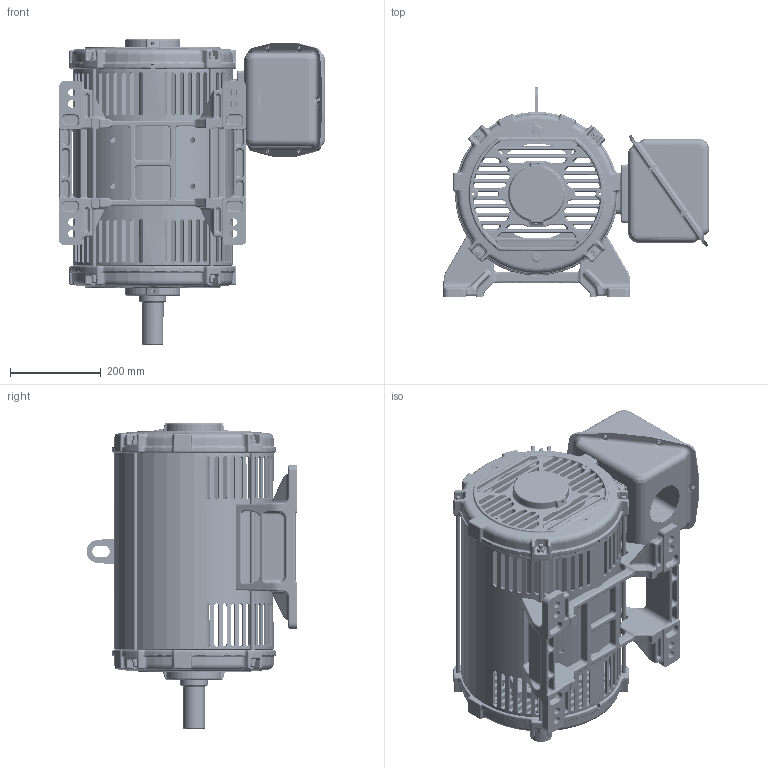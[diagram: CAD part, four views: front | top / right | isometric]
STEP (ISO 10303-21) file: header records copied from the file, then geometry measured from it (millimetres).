
FILE_DESCRIPTION((''),'2;1');
FILE_NAME('LATEST_2POLE_ASSY_ASM','2020-09-14T08:24:23',('EMD2341'),('Nidec Motor Corporation'),'CREO PARAMETRIC BY PTC INC, 2019080','CREO PARAMETRIC BY PTC INC, 2019080','');
FILE_SCHEMA(('CONFIG_CONTROL_DESIGN'));
Length unit declared in the file: inch
Products named in the file (17): 2088712_AF0; 2077546; 0393774-003; 0028711; 2POLE; 0391696; STUD; 0003152; HJN012; 0991438-GSK; 2086395; 2048988-OBB; 2048939; 2048988-OBC; 2048940; 2086936-BSE; LATEST_2POLE_ASSY_ASM
Assembly tree (33 placements, depth 2):
  LATEST_2POLE_ASSY_ASM
    2088712_AF0
    2077546
    0393774-003
    0028711
    2POLE
    0391696
    STUD  x4
    0003152  x8
    HJN012  x8
    0991438-GSK
    2086395
    2048988-OBB
    2048939
    2048988-OBC
    2048940
    2086936-BSE
Bounding box: 585.46 x 464.27 x 673.2 mm (x, y, z)
Volume: 9989513.4 mm3; surface area: 2946970.4 mm2
Topology: 35 solids, 43 shells, 6732 faces, 15669 edges, 8972 vertices
Faces by surface type: bspline 2786, cylinder 1639, plane 1046, torus 638, cone 363, sphere 260
Entity records: 312676 total; most frequent: CARTESIAN_POINT 182714, ORIENTED_EDGE 30438, DIRECTION 22627, EDGE_CURVE 15235, AXIS2_PLACEMENT_3D 9459, VERTEX_POINT 8696, EDGE_LOOP 6877, FACE_OUTER_BOUND 6540
